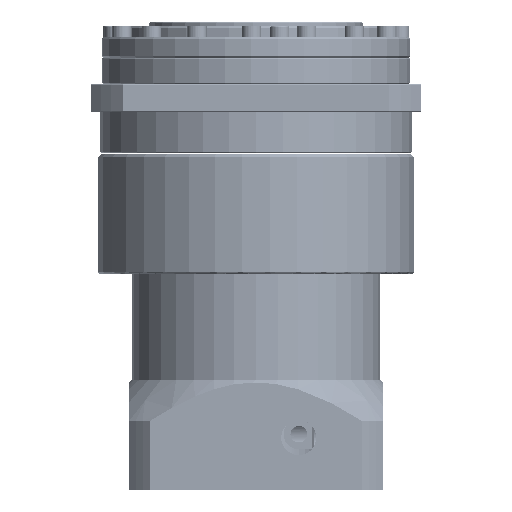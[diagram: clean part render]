
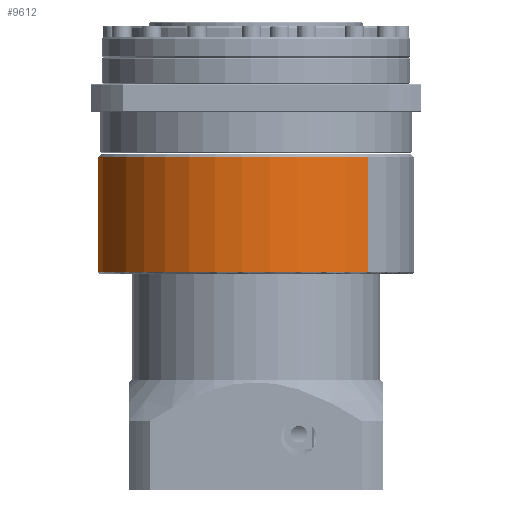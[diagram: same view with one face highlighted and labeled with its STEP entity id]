
A CAD part, front view. The second image highlights one B-rep face of the part: STEP entity #9612.
In plain terms, the highlighted cylindrical face has radius 57.5 mm (diameter 115 mm), a partial arc.
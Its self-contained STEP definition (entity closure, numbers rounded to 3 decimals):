
#9448 = ORIENTED_EDGE ( 'NONE', *, *, #84882, .T. ) ;
#9612 = ADVANCED_FACE ( 'NONE', ( #70620 ), #70618, .T. ) ;
#9618 = ORIENTED_EDGE ( 'NONE', *, *, #9889, .F. ) ;
#9873 = EDGE_LOOP ( 'NONE', ( #9618, #9448, #10098, #10091 ) ) ;
#9889 = EDGE_CURVE ( 'NONE', #65742, #53638, #71006, .T. ) ;
#9904 = EDGE_CURVE ( 'NONE', #65688, #65637, #71011, .T. ) ;
#10091 = ORIENTED_EDGE ( 'NONE', *, *, #10095, .T. ) ;
#10095 = EDGE_CURVE ( 'NONE', #65637, #53638, #72037, .T. ) ;
#10098 = ORIENTED_EDGE ( 'NONE', *, *, #9904, .T. ) ;
#24019 = CARTESIAN_POINT ( 'NONE',  ( 40.659, -40.659, -1.5 ) ) ;
#24279 = CARTESIAN_POINT ( 'NONE',  ( 40.659, -40.659, -43.25 ) ) ;
#24380 = CARTESIAN_POINT ( 'NONE',  ( -40.659, 40.659, -43.25 ) ) ;
#47951 = CARTESIAN_POINT ( 'NONE',  ( -40.659, 40.659, -1.5 ) ) ;
#53638 = VERTEX_POINT ( 'NONE', #47951 ) ;
#65637 = VERTEX_POINT ( 'NONE', #24019 ) ;
#65688 = VERTEX_POINT ( 'NONE', #24279 ) ;
#65742 = VERTEX_POINT ( 'NONE', #24380 ) ;
#70604 = DIRECTION ( 'NONE',  ( 0.707, -0.707, 0. ) ) ;
#70605 = DIRECTION ( 'NONE',  ( 0., 0., 1. ) ) ;
#70606 = CARTESIAN_POINT ( 'NONE',  ( 0., 0., -0.45 ) ) ;
#70607 = AXIS2_PLACEMENT_3D ( 'NONE', #70606, #70605, #70604 ) ;
#70618 = CYLINDRICAL_SURFACE ( 'NONE', #70607, 57.5 ) ;
#70620 = FACE_OUTER_BOUND ( 'NONE', #9873, .T. ) ;
#71006 = LINE ( 'NONE', #71055, #71054 ) ;
#71011 = LINE ( 'NONE', #71098, #71097 ) ;
#71053 = DIRECTION ( 'NONE',  ( 0., 0., 1. ) ) ;
#71054 = VECTOR ( 'NONE', #71053, 1000. ) ;
#71055 = CARTESIAN_POINT ( 'NONE',  ( -40.659, 40.659, -0.45 ) ) ;
#71096 = DIRECTION ( 'NONE',  ( 0., 0., 1. ) ) ;
#71097 = VECTOR ( 'NONE', #71096, 1000. ) ;
#71098 = CARTESIAN_POINT ( 'NONE',  ( 40.659, -40.659, -0.45 ) ) ;
#72030 = DIRECTION ( 'NONE',  ( 0.707, -0.707, 0. ) ) ;
#72032 = DIRECTION ( 'NONE',  ( 0., 0., -1. ) ) ;
#72033 = CARTESIAN_POINT ( 'NONE',  ( 0., 0., -1.5 ) ) ;
#72035 = AXIS2_PLACEMENT_3D ( 'NONE', #72033, #72032, #72030 ) ;
#72037 = CIRCLE ( 'NONE', #72035, 57.5 ) ;
#74564 = DIRECTION ( 'NONE',  ( 0.707, -0.707, 0. ) ) ;
#74565 = DIRECTION ( 'NONE',  ( 0., 0., 1. ) ) ;
#74566 = CARTESIAN_POINT ( 'NONE',  ( 0., 0., -43.25 ) ) ;
#74567 = AXIS2_PLACEMENT_3D ( 'NONE', #74566, #74565, #74564 ) ;
#74588 = CIRCLE ( 'NONE', #74567, 57.5 ) ;
#84882 = EDGE_CURVE ( 'NONE', #65742, #65688, #74588, .T. ) ;
